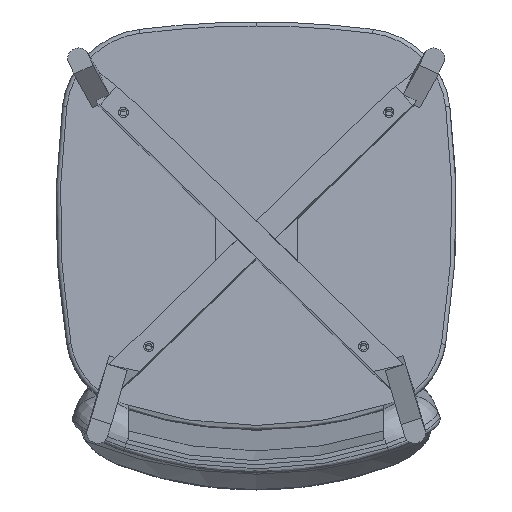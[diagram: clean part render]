
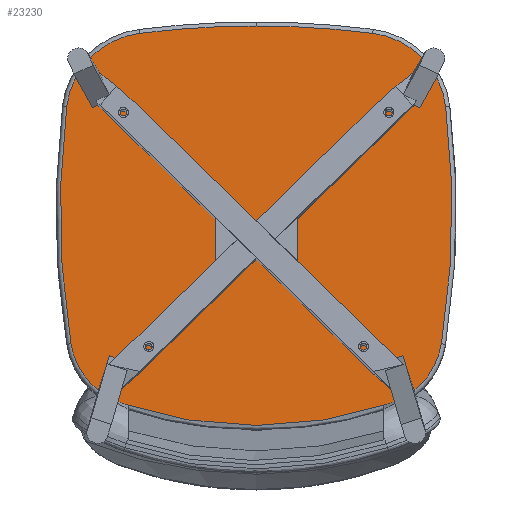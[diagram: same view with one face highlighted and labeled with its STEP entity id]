
A CAD part, front view. The second image highlights one B-rep face of the part: STEP entity #23230.
In plain terms, the highlighted planar face has unit normal (0, -0.999, 0.052) as drawn and (0, -1, 0) by its records, which use the part's own axes.
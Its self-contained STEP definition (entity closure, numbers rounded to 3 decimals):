
#81 = DIRECTION ( 'NONE',  ( 0., -1., 0. ) ) ;
#293 = CARTESIAN_POINT ( 'NONE',  ( 125.766, 0., 367.06 ) ) ;
#365 = DIRECTION ( 'NONE',  ( 0., 0., 1. ) ) ;
#740 = DIRECTION ( 'NONE',  ( 0., 0., 1. ) ) ;
#1161 = DIRECTION ( 'NONE',  ( 0., 1., 0. ) ) ;
#1294 = AXIS2_PLACEMENT_3D ( 'NONE', #293, #28130, #7363 ) ;
#1302 = VERTEX_POINT ( 'NONE', #16883 ) ;
#1341 = EDGE_CURVE ( 'NONE', #10257, #6903, #26468, .T. ) ;
#1525 = EDGE_CURVE ( 'NONE', #14123, #1914, #28044, .T. ) ;
#1628 = CARTESIAN_POINT ( 'NONE',  ( 138.343, 0., 466.266 ) ) ;
#1821 = ORIENTED_EDGE ( 'NONE', *, *, #13148, .T. ) ;
#1914 = VERTEX_POINT ( 'NONE', #24912 ) ;
#2225 = DIRECTION ( 'NONE',  ( 0., -1., 0. ) ) ;
#2252 = ORIENTED_EDGE ( 'NONE', *, *, #9373, .T. ) ;
#2776 = ORIENTED_EDGE ( 'NONE', *, *, #18061, .T. ) ;
#2874 = DIRECTION ( 'NONE',  ( 0., 0., 1. ) ) ;
#2902 = AXIS2_PLACEMENT_3D ( 'NONE', #3209, #5992, #740 ) ;
#3209 = CARTESIAN_POINT ( 'NONE',  ( -767.34, 0., 255.879 ) ) ;
#3532 = CIRCLE ( 'NONE', #30360, 500. ) ;
#3714 = ORIENTED_EDGE ( 'NONE', *, *, #1341, .T. ) ;
#4059 = CARTESIAN_POINT ( 'NONE',  ( -138.343, 0., 466.266 ) ) ;
#4836 = CARTESIAN_POINT ( 'NONE',  ( -131.139, 0., 111.538 ) ) ;
#5044 = AXIS2_PLACEMENT_3D ( 'NONE', #8903, #1161, #23558 ) ;
#5405 = AXIS2_PLACEMENT_3D ( 'NONE', #14621, #26645, #19061 ) ;
#5459 = DIRECTION ( 'NONE',  ( 0., -1., 0. ) ) ;
#5992 = DIRECTION ( 'NONE',  ( 0., -1., 0. ) ) ;
#6511 = AXIS2_PLACEMENT_3D ( 'NONE', #7762, #17813, #365 ) ;
#6709 = EDGE_CURVE ( 'NONE', #12279, #29750, #7035, .T. ) ;
#6903 = VERTEX_POINT ( 'NONE', #15760 ) ;
#6980 = CIRCLE ( 'NONE', #5405, 1000. ) ;
#7035 = CIRCLE ( 'NONE', #28098, 90. ) ;
#7363 = DIRECTION ( 'NONE',  ( 0., 0., 1. ) ) ;
#7481 = EDGE_CURVE ( 'NONE', #1914, #10257, #12867, .T. ) ;
#7762 = CARTESIAN_POINT ( 'NONE',  ( 0., 0., -625. ) ) ;
#8903 = CARTESIAN_POINT ( 'NONE',  ( 320.787, 0., 311.47 ) ) ;
#9373 = EDGE_CURVE ( 'NONE', #6903, #12781, #6980, .T. ) ;
#9937 = DIRECTION ( 'NONE',  ( 0., 0., 1. ) ) ;
#10257 = VERTEX_POINT ( 'NONE', #4059 ) ;
#10280 = AXIS2_PLACEMENT_3D ( 'NONE', #4836, #81, #2874 ) ;
#10847 = DIRECTION ( 'NONE',  ( 0., 0., 1. ) ) ;
#11019 = CARTESIAN_POINT ( 'NONE',  ( 225., 0., 379.413 ) ) ;
#11914 = CARTESIAN_POINT ( 'NONE',  ( 220., 0., 97.263 ) ) ;
#11996 = DIRECTION ( 'NONE',  ( 0., 0., 1. ) ) ;
#12279 = VERTEX_POINT ( 'NONE', #24567 ) ;
#12297 = ORIENTED_EDGE ( 'NONE', *, *, #32600, .T. ) ;
#12781 = VERTEX_POINT ( 'NONE', #30263 ) ;
#12867 = CIRCLE ( 'NONE', #6511, 1100. ) ;
#12988 = ORIENTED_EDGE ( 'NONE', *, *, #17939, .T. ) ;
#13148 = EDGE_CURVE ( 'NONE', #29931, #14123, #13903, .T. ) ;
#13903 = CIRCLE ( 'NONE', #1294, 100. ) ;
#14123 = VERTEX_POINT ( 'NONE', #1628 ) ;
#14621 = CARTESIAN_POINT ( 'NONE',  ( 767.34, 0., 255.879 ) ) ;
#15760 = CARTESIAN_POINT ( 'NONE',  ( -225., 0., 379.413 ) ) ;
#16883 = CARTESIAN_POINT ( 'NONE',  ( -159.926, 0., 26.266 ) ) ;
#17094 = CIRCLE ( 'NONE', #2902, 1000. ) ;
#17813 = DIRECTION ( 'NONE',  ( 0., -1., 0. ) ) ;
#17939 = EDGE_CURVE ( 'NONE', #12781, #1302, #31309, .T. ) ;
#18061 = EDGE_CURVE ( 'NONE', #29750, #29931, #17094, .T. ) ;
#18559 = AXIS2_PLACEMENT_3D ( 'NONE', #24149, #2225, #26787 ) ;
#19061 = DIRECTION ( 'NONE',  ( 0., 0., 1. ) ) ;
#21907 = ORIENTED_EDGE ( 'NONE', *, *, #7481, .T. ) ;
#22927 = CARTESIAN_POINT ( 'NONE',  ( 0., 0., -625. ) ) ;
#23165 = DIRECTION ( 'NONE',  ( 0., -1., 0. ) ) ;
#23230 = ADVANCED_FACE ( 'NONE', ( #28510 ), #28997, .F. ) ;
#23558 = DIRECTION ( 'NONE',  ( 0., 0., 1. ) ) ;
#24149 = CARTESIAN_POINT ( 'NONE',  ( -125.766, 0., 367.06 ) ) ;
#24166 = CARTESIAN_POINT ( 'NONE',  ( 0., 0., 500. ) ) ;
#24567 = CARTESIAN_POINT ( 'NONE',  ( 159.926, 0., 26.266 ) ) ;
#24912 = CARTESIAN_POINT ( 'NONE',  ( 0., 0., 475. ) ) ;
#25126 = ORIENTED_EDGE ( 'NONE', *, *, #1525, .T. ) ;
#25515 = EDGE_LOOP ( 'NONE', ( #25126, #21907, #3714, #2252, #12988, #12297, #32075, #2776, #1821 ) ) ;
#26468 = CIRCLE ( 'NONE', #18559, 100. ) ;
#26645 = DIRECTION ( 'NONE',  ( 0., -1., 0. ) ) ;
#26787 = DIRECTION ( 'NONE',  ( 0., 0., 1. ) ) ;
#28044 = CIRCLE ( 'NONE', #30655, 1100. ) ;
#28098 = AXIS2_PLACEMENT_3D ( 'NONE', #30581, #23165, #10847 ) ;
#28130 = DIRECTION ( 'NONE',  ( 0., -1., 0. ) ) ;
#28510 = FACE_OUTER_BOUND ( 'NONE', #25515, .T. ) ;
#28997 = PLANE ( 'NONE',  #5044 ) ;
#29750 = VERTEX_POINT ( 'NONE', #11914 ) ;
#29931 = VERTEX_POINT ( 'NONE', #11019 ) ;
#30263 = CARTESIAN_POINT ( 'NONE',  ( -220., 0., 97.263 ) ) ;
#30360 = AXIS2_PLACEMENT_3D ( 'NONE', #24166, #32388, #11996 ) ;
#30581 = CARTESIAN_POINT ( 'NONE',  ( 131.139, 0., 111.538 ) ) ;
#30655 = AXIS2_PLACEMENT_3D ( 'NONE', #22927, #5459, #9937 ) ;
#31309 = CIRCLE ( 'NONE', #10280, 90. ) ;
#32075 = ORIENTED_EDGE ( 'NONE', *, *, #6709, .T. ) ;
#32388 = DIRECTION ( 'NONE',  ( 0., -1., 0. ) ) ;
#32600 = EDGE_CURVE ( 'NONE', #1302, #12279, #3532, .T. ) ;
